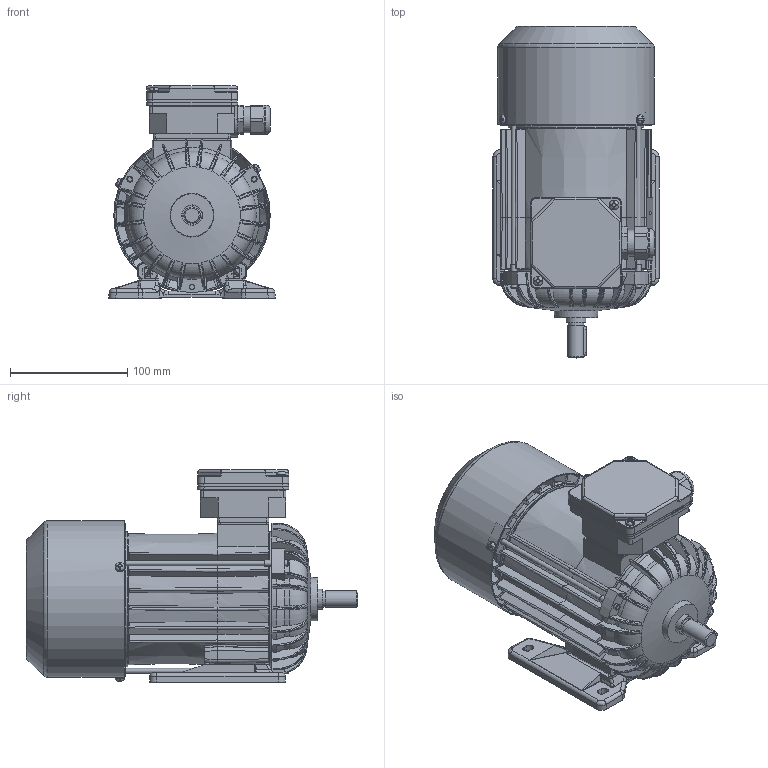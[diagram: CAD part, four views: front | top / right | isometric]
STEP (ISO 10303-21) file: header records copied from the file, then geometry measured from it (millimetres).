
FILE_DESCRIPTION(/* description */ ('Unknown'),/* implementation_level */ '2;1');
FILE_NAME(/* name */ '3SIE71-8B',/* time_stamp */ '2021-02-03T14:50:18+01:00',/* author */ ('Unknown'),/* organization */ ('Unknown'),/* preprocessor_version */ 'ST-DEVELOPER v16.7',/* originating_system */ 'Solid Edge',/* authorisation */ 'Unknown');
FILE_SCHEMA (('AUTOMOTIVE_DESIGN {1 0 10303 214 3 1 1}'));
Products named in the file (1): 3SIE71-8B
Bounding box: 141.93 x 283.48 x 181.5 mm (x, y, z)
Volume: 725834.8 mm3; surface area: 440766.9 mm2
Topology: 2 solids, 2 shells, 3121 faces, 8453 edges, 5301 vertices
Faces by surface type: plane 1163, cylinder 795, bspline 646, torus 282, cone 203, sphere 32
Full cylindrical faces by diameter (mm): 2 x2, 2.4 x2, 3.7 x4, 3.8 x4, 4 x2, 4.4 x3, 4.8 x2, 5 x8, 5.1 x3, 5.5 x3, 5.8 x4, 7 x1, 8 x6, 13.599 x1, 13.999 x1, 15.898 x1, 16.098 x1, 16.498 x1, 16.998 x2, 17.4 x2, 21.998 x2, 22.3 x1, 22.498 x1, 22.648 x1, 22.998 x1, 23.048 x1, 24.496 x4, 25 x1, 28 x2, 30 x1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
Entity records: 132765 total; most frequent: CARTESIAN_POINT 38976, ORIENTED_EDGE 16146, DIRECTION 13463, EDGE_CURVE 8073, VERTEX_POINT 5175, AXIS2_PLACEMENT_3D 5158, EDGE_LOOP 3526, FACE_BOUND 3526
